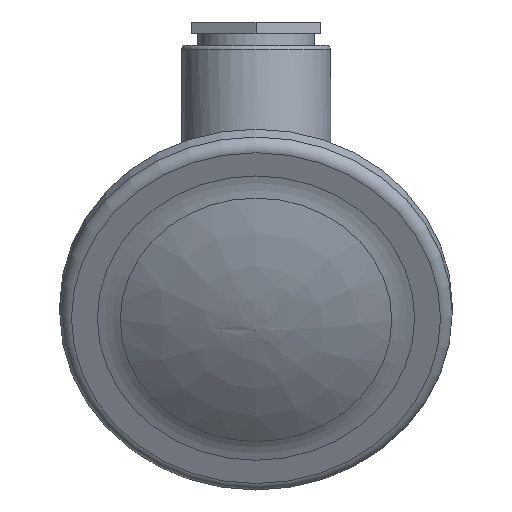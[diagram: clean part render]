
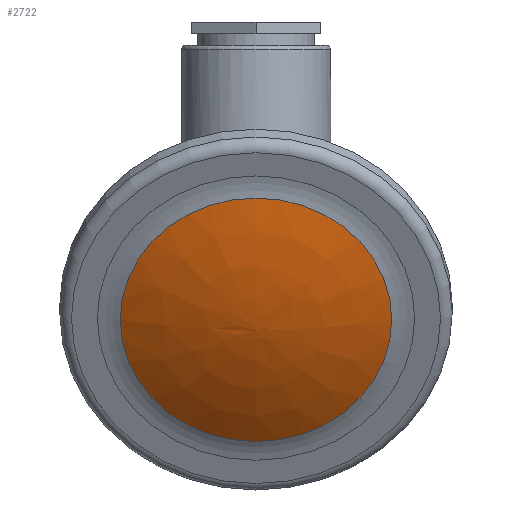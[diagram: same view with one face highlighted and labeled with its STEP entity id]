
A CAD part, left-side view. The second image highlights one B-rep face of the part: STEP entity #2722.
In plain terms, the highlighted free-form (B-spline) face has degree [3, 3] with [5, 19] control points.
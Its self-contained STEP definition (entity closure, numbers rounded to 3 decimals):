
#19=VERTEX_LOOP('',#1154);
#22=B_SPLINE_SURFACE_WITH_KNOTS('',3,3,((#5535,#5536,#5537,#5538,#5539,
#5540,#5541,#5542,#5543,#5544,#5545,#5546,#5547,#5548,#5549,#5550,#5551,
#5552,#5553),(#5554,#5555,#5556,#5557,#5558,#5559,#5560,#5561,#5562,#5563,
#5564,#5565,#5566,#5567,#5568,#5569,#5570,#5571,#5572),(#5573,#5574,#5575,
#5576,#5577,#5578,#5579,#5580,#5581,#5582,#5583,#5584,#5585,#5586,#5587,
#5588,#5589,#5590,#5591),(#5592,#5593,#5594,#5595,#5596,#5597,#5598,#5599,
#5600,#5601,#5602,#5603,#5604,#5605,#5606,#5607,#5608,#5609,#5610),(#5611,
#5612,#5613,#5614,#5615,#5616,#5617,#5618,#5619,#5620,#5621,#5622,#5623,
#5624,#5625,#5626,#5627,#5628,#5629)),.UNSPECIFIED.,.F.,.T.,.F.,(4,1,4),
(1,1,1,1,1,1,1,1,1,1,1,1,1,1,1,1,1,1,1,1,1,1,1),(0.,0.49,0.98),
(-1.178,-0.785,-0.393,0.,0.393,
0.785,1.178,1.571,1.963,2.356,
2.749,3.142,3.534,3.927,4.32,
4.712,5.105,5.498,5.89,6.283,
6.676,7.069,7.461),.UNSPECIFIED.);
#714=ORIENTED_EDGE('',*,*,#979,.T.);
#979=EDGE_CURVE('',#1155,#1155,#1269,.T.);
#1154=VERTEX_POINT('',#5630);
#1155=VERTEX_POINT('',#5632);
#1269=CIRCLE('',#2935,23.177);
#1434=EDGE_LOOP('',(#714));
#1625=FACE_BOUND('',#19,.T.);
#1626=FACE_BOUND('',#1434,.T.);
#2722=ADVANCED_FACE('',(#1625,#1626),#22,.F.);
#2935=AXIS2_PLACEMENT_3D('',#5631,#3395,#3396);
#3395=DIRECTION('',(-0.896,0.,-0.444));
#3396=DIRECTION('',(0.444,0.,-0.896));
#5535=CARTESIAN_POINT('',(-42.546,0.,-5.716));
#5536=CARTESIAN_POINT('',(-42.546,0.,-5.716));
#5537=CARTESIAN_POINT('',(-42.546,0.,-5.716));
#5538=CARTESIAN_POINT('',(-42.546,0.,-5.716));
#5539=CARTESIAN_POINT('',(-42.546,0.,-5.716));
#5540=CARTESIAN_POINT('',(-42.546,0.,-5.716));
#5541=CARTESIAN_POINT('',(-42.546,0.,-5.716));
#5542=CARTESIAN_POINT('',(-42.546,0.,-5.716));
#5543=CARTESIAN_POINT('',(-42.546,0.,-5.716));
#5544=CARTESIAN_POINT('',(-42.546,0.,-5.716));
#5545=CARTESIAN_POINT('',(-42.546,0.,-5.716));
#5546=CARTESIAN_POINT('',(-42.546,0.,-5.716));
#5547=CARTESIAN_POINT('',(-42.546,0.,-5.716));
#5548=CARTESIAN_POINT('',(-42.546,0.,-5.716));
#5549=CARTESIAN_POINT('',(-42.546,0.,-5.716));
#5550=CARTESIAN_POINT('',(-42.546,0.,-5.716));
#5551=CARTESIAN_POINT('',(-42.546,0.,-5.716));
#5552=CARTESIAN_POINT('',(-42.546,0.,-5.716));
#5553=CARTESIAN_POINT('',(-42.546,0.,-5.716));
#5554=CARTESIAN_POINT('',(-41.758,3.72,-7.045));
#5555=CARTESIAN_POINT('',(-42.441,4.026,-5.664));
#5556=CARTESIAN_POINT('',(-43.125,3.72,-4.283));
#5557=CARTESIAN_POINT('',(-43.705,2.847,-3.113));
#5558=CARTESIAN_POINT('',(-44.092,1.541,-2.331));
#5559=CARTESIAN_POINT('',(-44.228,0.,-2.056));
#5560=CARTESIAN_POINT('',(-44.092,-1.541,-2.331));
#5561=CARTESIAN_POINT('',(-43.705,-2.847,-3.113));
#5562=CARTESIAN_POINT('',(-43.125,-3.72,-4.283));
#5563=CARTESIAN_POINT('',(-42.441,-4.026,-5.664));
#5564=CARTESIAN_POINT('',(-41.758,-3.72,-7.045));
#5565=CARTESIAN_POINT('',(-41.178,-2.847,-8.215));
#5566=CARTESIAN_POINT('',(-40.791,-1.541,-8.998));
#5567=CARTESIAN_POINT('',(-40.655,0.,-9.272));
#5568=CARTESIAN_POINT('',(-40.791,1.541,-8.998));
#5569=CARTESIAN_POINT('',(-41.178,2.847,-8.215));
#5570=CARTESIAN_POINT('',(-41.758,3.72,-7.045));
#5571=CARTESIAN_POINT('',(-42.441,4.026,-5.664));
#5572=CARTESIAN_POINT('',(-43.125,3.72,-4.283));
#5573=CARTESIAN_POINT('',(-39.642,11.186,-9.448));
#5574=CARTESIAN_POINT('',(-41.698,12.107,-5.296));
#5575=CARTESIAN_POINT('',(-43.753,11.186,-1.144));
#5576=CARTESIAN_POINT('',(-45.496,8.561,2.376));
#5577=CARTESIAN_POINT('',(-46.66,4.633,4.728));
#5578=CARTESIAN_POINT('',(-47.069,0.,5.554));
#5579=CARTESIAN_POINT('',(-46.66,-4.633,4.728));
#5580=CARTESIAN_POINT('',(-45.496,-8.561,2.376));
#5581=CARTESIAN_POINT('',(-43.753,-11.186,-1.144));
#5582=CARTESIAN_POINT('',(-41.698,-12.107,-5.296));
#5583=CARTESIAN_POINT('',(-39.642,-11.186,-9.448));
#5584=CARTESIAN_POINT('',(-37.9,-8.561,-12.968));
#5585=CARTESIAN_POINT('',(-36.735,-4.633,-15.32));
#5586=CARTESIAN_POINT('',(-36.326,0.,-16.146));
#5587=CARTESIAN_POINT('',(-36.735,4.633,-15.32));
#5588=CARTESIAN_POINT('',(-37.9,8.561,-12.968));
#5589=CARTESIAN_POINT('',(-39.642,11.186,-9.448));
#5590=CARTESIAN_POINT('',(-41.698,12.107,-5.296));
#5591=CARTESIAN_POINT('',(-43.753,11.186,-1.144));
#5592=CARTESIAN_POINT('',(-36.509,18.45,-11.254));
#5593=CARTESIAN_POINT('',(-39.899,19.97,-4.406));
#5594=CARTESIAN_POINT('',(-43.29,18.45,2.443));
#5595=CARTESIAN_POINT('',(-46.164,14.121,8.249));
#5596=CARTESIAN_POINT('',(-48.085,7.642,12.129));
#5597=CARTESIAN_POINT('',(-48.759,0.,13.491));
#5598=CARTESIAN_POINT('',(-48.085,-7.642,12.129));
#5599=CARTESIAN_POINT('',(-46.164,-14.121,8.249));
#5600=CARTESIAN_POINT('',(-43.29,-18.45,2.443));
#5601=CARTESIAN_POINT('',(-39.899,-19.97,-4.406));
#5602=CARTESIAN_POINT('',(-36.509,-18.45,-11.254));
#5603=CARTESIAN_POINT('',(-33.634,-14.121,-17.06));
#5604=CARTESIAN_POINT('',(-31.714,-7.642,-20.94));
#5605=CARTESIAN_POINT('',(-31.039,0.,-22.302));
#5606=CARTESIAN_POINT('',(-31.714,7.642,-20.94));
#5607=CARTESIAN_POINT('',(-33.634,14.121,-17.06));
#5608=CARTESIAN_POINT('',(-36.509,18.45,-11.254));
#5609=CARTESIAN_POINT('',(-39.899,19.97,-4.406));
#5610=CARTESIAN_POINT('',(-43.29,18.45,2.443));
#5611=CARTESIAN_POINT('',(-34.717,21.97,-11.994));
#5612=CARTESIAN_POINT('',(-38.754,23.78,-3.839));
#5613=CARTESIAN_POINT('',(-42.792,21.97,4.317));
#5614=CARTESIAN_POINT('',(-46.214,16.815,11.231));
#5615=CARTESIAN_POINT('',(-48.501,9.1,15.851));
#5616=CARTESIAN_POINT('',(-49.304,0.,17.473));
#5617=CARTESIAN_POINT('',(-48.501,-9.1,15.851));
#5618=CARTESIAN_POINT('',(-46.214,-16.815,11.231));
#5619=CARTESIAN_POINT('',(-42.792,-21.97,4.317));
#5620=CARTESIAN_POINT('',(-38.754,-23.78,-3.839));
#5621=CARTESIAN_POINT('',(-34.717,-21.97,-11.994));
#5622=CARTESIAN_POINT('',(-31.294,-16.815,-18.908));
#5623=CARTESIAN_POINT('',(-29.007,-9.1,-23.528));
#5624=CARTESIAN_POINT('',(-28.204,0.,-25.15));
#5625=CARTESIAN_POINT('',(-29.007,9.1,-23.528));
#5626=CARTESIAN_POINT('',(-31.294,16.815,-18.908));
#5627=CARTESIAN_POINT('',(-34.717,21.97,-11.994));
#5628=CARTESIAN_POINT('',(-38.754,23.78,-3.839));
#5629=CARTESIAN_POINT('',(-42.792,21.97,4.317));
#5630=CARTESIAN_POINT('',(-42.546,0.,-5.716));
#5631=CARTESIAN_POINT('',(-38.754,0.,-3.839));
#5632=CARTESIAN_POINT('',(-28.471,0.,-24.61));
